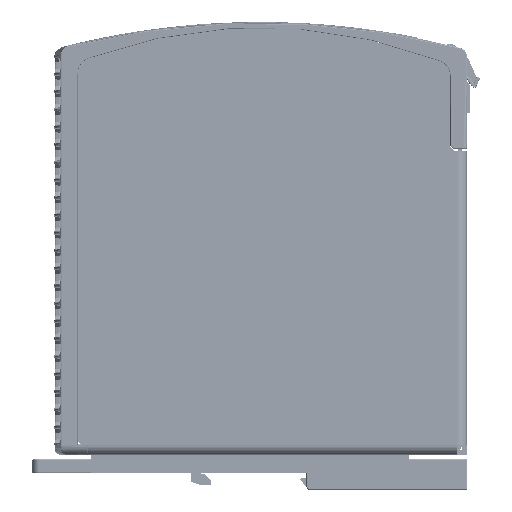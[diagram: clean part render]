
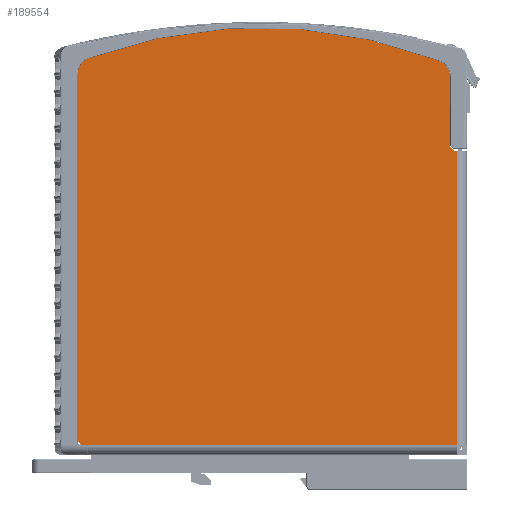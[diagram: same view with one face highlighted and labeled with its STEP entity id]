
A CAD part, left-side view. The second image highlights one B-rep face of the part: STEP entity #189554.
In plain terms, the highlighted planar face has unit normal (-1, 0, 0).
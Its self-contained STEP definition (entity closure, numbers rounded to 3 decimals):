
#2544 = ORIENTED_EDGE ( 'NONE', *, *, #75829, .T. ) ;
#2677 = EDGE_CURVE ( 'NONE', #289009, #49610, #209958, .T. ) ;
#3767 = EDGE_CURVE ( 'NONE', #234339, #233691, #137262, .T. ) ;
#6420 = DIRECTION ( 'NONE',  ( 0., 0., 1. ) ) ;
#11349 = EDGE_LOOP ( 'NONE', ( #77197, #2544, #95320, #24601, #262487, #21312, #299191, #226743, #204037, #18948, #101529, #223561 ) ) ;
#14708 = VECTOR ( 'NONE', #160127, 1000. ) ;
#18721 = CARTESIAN_POINT ( 'NONE',  ( -39.5, -59., 3. ) ) ;
#18836 = CARTESIAN_POINT ( 'NONE',  ( -39.5, 54.9, 4.1 ) ) ;
#18948 = ORIENTED_EDGE ( 'NONE', *, *, #217523, .F. ) ;
#20518 = CIRCLE ( 'NONE', #317681, 5. ) ;
#21312 = ORIENTED_EDGE ( 'NONE', *, *, #143066, .T. ) ;
#23565 = VERTEX_POINT ( 'NONE', #198936 ) ;
#24601 = ORIENTED_EDGE ( 'NONE', *, *, #149355, .T. ) ;
#26025 = VECTOR ( 'NONE', #38711, 1000. ) ;
#37084 = LINE ( 'NONE', #18721, #26025 ) ;
#38711 = DIRECTION ( 'NONE',  ( 0., 0., 1. ) ) ;
#42546 = DIRECTION ( 'NONE',  ( 0., 1., 0. ) ) ;
#49610 = VERTEX_POINT ( 'NONE', #89412 ) ;
#57622 = DIRECTION ( 'NONE',  ( 0., 0., -1. ) ) ;
#58786 = CARTESIAN_POINT ( 'NONE',  ( -39.5, 58.4, 3. ) ) ;
#59675 = CIRCLE ( 'NONE', #75582, 150. ) ;
#61111 = LINE ( 'NONE', #285469, #299655 ) ;
#63963 = VERTEX_POINT ( 'NONE', #180452 ) ;
#68201 = CARTESIAN_POINT ( 'NONE',  ( -39.5, 51.621, 119.09 ) ) ;
#69364 = VECTOR ( 'NONE', #273973, 1000. ) ;
#72117 = EDGE_CURVE ( 'NONE', #289009, #23565, #220371, .T. ) ;
#75229 = LINE ( 'NONE', #18836, #173540 ) ;
#75350 = DIRECTION ( 'NONE',  ( 0., 0., -1. ) ) ;
#75582 = AXIS2_PLACEMENT_3D ( 'NONE', #203622, #300039, #328292 ) ;
#75829 = EDGE_CURVE ( 'NONE', #262775, #63963, #141131, .T. ) ;
#77197 = ORIENTED_EDGE ( 'NONE', *, *, #324750, .T. ) ;
#77849 = AXIS2_PLACEMENT_3D ( 'NONE', #201615, #303011, #75350 ) ;
#81638 = AXIS2_PLACEMENT_3D ( 'NONE', #148663, #304866, #328155 ) ;
#82277 = VERTEX_POINT ( 'NONE', #158943 ) ;
#89412 = CARTESIAN_POINT ( 'NONE',  ( -39.5, -59., 3. ) ) ;
#92934 = CARTESIAN_POINT ( 'NONE',  ( -39.5, 49.9, 114.396 ) ) ;
#95320 = ORIENTED_EDGE ( 'NONE', *, *, #284861, .T. ) ;
#97803 = VECTOR ( 'NONE', #42546, 1000. ) ;
#98934 = CARTESIAN_POINT ( 'NONE',  ( -39.5, 54.9, 4.1 ) ) ;
#101529 = ORIENTED_EDGE ( 'NONE', *, *, #72117, .F. ) ;
#104403 = CIRCLE ( 'NONE', #77849, 5. ) ;
#124384 = CARTESIAN_POINT ( 'NONE',  ( -39.5, -58.25, 91.4 ) ) ;
#124565 = VECTOR ( 'NONE', #242522, 1000. ) ;
#137262 = LINE ( 'NONE', #237025, #301468 ) ;
#141131 = LINE ( 'NONE', #215946, #124565 ) ;
#143066 = EDGE_CURVE ( 'NONE', #82277, #295839, #59675, .T. ) ;
#148663 = CARTESIAN_POINT ( 'NONE',  ( -39.5, 58.4, 0. ) ) ;
#149355 = EDGE_CURVE ( 'NONE', #262992, #261365, #61111, .T. ) ;
#150356 = CARTESIAN_POINT ( 'NONE',  ( -39.5, -56.85, 113.665 ) ) ;
#156607 = VERTEX_POINT ( 'NONE', #158604 ) ;
#158604 = CARTESIAN_POINT ( 'NONE',  ( -39.5, 53.9, 3.1 ) ) ;
#158943 = CARTESIAN_POINT ( 'NONE',  ( -39.5, -53.638, 118.334 ) ) ;
#160127 = DIRECTION ( 'NONE',  ( 0., -1., 0. ) ) ;
#168816 = LINE ( 'NONE', #270209, #97803 ) ;
#173540 = VECTOR ( 'NONE', #196560, 1000. ) ;
#177367 = CARTESIAN_POINT ( 'NONE',  ( -39.5, 51.9, 3. ) ) ;
#178716 = EDGE_CURVE ( 'NONE', #295839, #234339, #20518, .T. ) ;
#180452 = CARTESIAN_POINT ( 'NONE',  ( -39.5, -58.25, 91.4 ) ) ;
#189554 = ADVANCED_FACE ( 'NONE', ( #276640 ), #223468, .F. ) ;
#196560 = DIRECTION ( 'NONE',  ( 0., -0.707, -0.707 ) ) ;
#198936 = CARTESIAN_POINT ( 'NONE',  ( -39.5, 51.9, 3.1 ) ) ;
#199986 = CARTESIAN_POINT ( 'NONE',  ( -39.5, 54.9, 114.396 ) ) ;
#201615 = CARTESIAN_POINT ( 'NONE',  ( -39.5, -51.85, 113.665 ) ) ;
#203622 = CARTESIAN_POINT ( 'NONE',  ( -39.5, 0., -21.748 ) ) ;
#204037 = ORIENTED_EDGE ( 'NONE', *, *, #301407, .T. ) ;
#209958 = LINE ( 'NONE', #58786, #14708 ) ;
#210099 = EDGE_CURVE ( 'NONE', #261365, #82277, #104403, .T. ) ;
#215946 = CARTESIAN_POINT ( 'NONE',  ( -39.5, -58.25, 91.4 ) ) ;
#217523 = EDGE_CURVE ( 'NONE', #23565, #156607, #168816, .T. ) ;
#220371 = LINE ( 'NONE', #248631, #253863 ) ;
#223468 = PLANE ( 'NONE',  #81638 ) ;
#223561 = ORIENTED_EDGE ( 'NONE', *, *, #2677, .T. ) ;
#224126 = DIRECTION ( 'NONE',  ( 0., 0., -1. ) ) ;
#226743 = ORIENTED_EDGE ( 'NONE', *, *, #3767, .T. ) ;
#231119 = CARTESIAN_POINT ( 'NONE',  ( -39.5, -56.85, 92.8 ) ) ;
#233691 = VERTEX_POINT ( 'NONE', #98934 ) ;
#234339 = VERTEX_POINT ( 'NONE', #199986 ) ;
#237025 = CARTESIAN_POINT ( 'NONE',  ( -39.5, 54.9, 114.396 ) ) ;
#242522 = DIRECTION ( 'NONE',  ( 0., 1., 0. ) ) ;
#245736 = LINE ( 'NONE', #124384, #69364 ) ;
#248631 = CARTESIAN_POINT ( 'NONE',  ( -39.5, 51.9, 3.1 ) ) ;
#253863 = VECTOR ( 'NONE', #271938, 1000. ) ;
#261365 = VERTEX_POINT ( 'NONE', #150356 ) ;
#262487 = ORIENTED_EDGE ( 'NONE', *, *, #210099, .T. ) ;
#262775 = VERTEX_POINT ( 'NONE', #278493 ) ;
#262992 = VERTEX_POINT ( 'NONE', #231119 ) ;
#270209 = CARTESIAN_POINT ( 'NONE',  ( -39.5, 51.9, 3.1 ) ) ;
#271938 = DIRECTION ( 'NONE',  ( 0., 0., 1. ) ) ;
#272364 = DIRECTION ( 'NONE',  ( -1., 0., 0. ) ) ;
#273973 = DIRECTION ( 'NONE',  ( 0., 0.707, 0.707 ) ) ;
#276640 = FACE_OUTER_BOUND ( 'NONE', #11349, .T. ) ;
#278493 = CARTESIAN_POINT ( 'NONE',  ( -39.5, -59., 91.4 ) ) ;
#284861 = EDGE_CURVE ( 'NONE', #63963, #262992, #245736, .T. ) ;
#285469 = CARTESIAN_POINT ( 'NONE',  ( -39.5, -56.85, 113.665 ) ) ;
#289009 = VERTEX_POINT ( 'NONE', #177367 ) ;
#295839 = VERTEX_POINT ( 'NONE', #68201 ) ;
#299191 = ORIENTED_EDGE ( 'NONE', *, *, #178716, .T. ) ;
#299655 = VECTOR ( 'NONE', #6420, 1000. ) ;
#300039 = DIRECTION ( 'NONE',  ( -1., 0., 0. ) ) ;
#301407 = EDGE_CURVE ( 'NONE', #233691, #156607, #75229, .T. ) ;
#301468 = VECTOR ( 'NONE', #57622, 1000. ) ;
#303011 = DIRECTION ( 'NONE',  ( -1., 0., 0. ) ) ;
#304866 = DIRECTION ( 'NONE',  ( 1., 0., 0. ) ) ;
#317681 = AXIS2_PLACEMENT_3D ( 'NONE', #92934, #272364, #224126 ) ;
#324750 = EDGE_CURVE ( 'NONE', #49610, #262775, #37084, .T. ) ;
#328155 = DIRECTION ( 'NONE',  ( 0., 0., -1. ) ) ;
#328292 = DIRECTION ( 'NONE',  ( 0., 0., -1. ) ) ;
